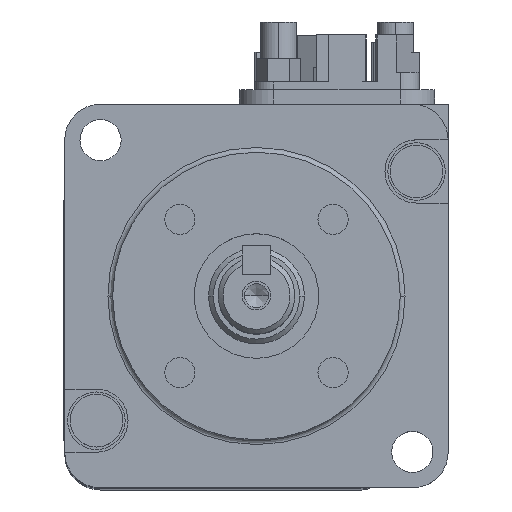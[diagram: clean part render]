
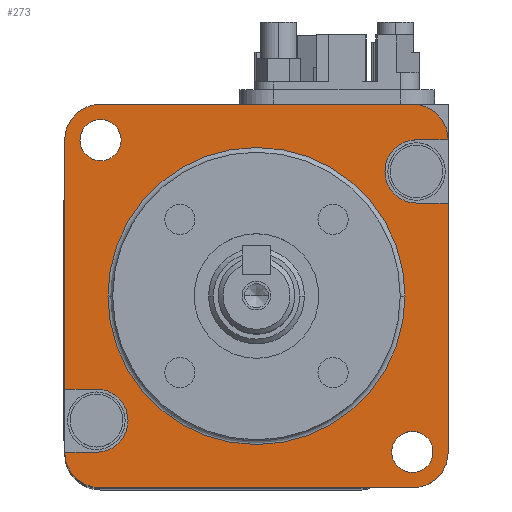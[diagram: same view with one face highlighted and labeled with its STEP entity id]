
A CAD part, top view. The second image highlights one B-rep face of the part: STEP entity #273.
In plain terms, the highlighted planar face has unit normal (0, 0, 1).
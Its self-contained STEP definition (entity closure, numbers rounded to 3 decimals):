
#273=ADVANCED_FACE('',(#2119,#2120,#2121,#2122),#2118,.T.);
#2118=PLANE('',#5145);
#2119=FACE_OUTER_BOUND('',#5146,.T.);
#2120=FACE_BOUND('',#5147,.T.);
#2121=FACE_BOUND('',#5148,.T.);
#2122=FACE_BOUND('',#5149,.T.);
#5142=CARTESIAN_POINT('',(-24.,-24.,0.));
#5143=DIRECTION('',(0.,0.,1.));
#5144=DIRECTION('',(1.,0.,0.));
#5145=AXIS2_PLACEMENT_3D('',#5142,#5143,#5144);
#5146=EDGE_LOOP('',(#7208,#7209,#7210,#7211,#7212,#7213,#7214,#7215,#7216,#7217,#7218,#7219,#7220,#7221));
#5147=EDGE_LOOP('',(#7222,#7223));
#5148=EDGE_LOOP('',(#7224,#7225));
#5149=EDGE_LOOP('',(#7226,#7227));
#7208=ORIENTED_EDGE('',*,*,#8835,.F.);
#7209=ORIENTED_EDGE('',*,*,#8818,.T.);
#7210=ORIENTED_EDGE('',*,*,#8856,.T.);
#7211=ORIENTED_EDGE('',*,*,#8857,.T.);
#7212=ORIENTED_EDGE('',*,*,#8858,.T.);
#7213=ORIENTED_EDGE('',*,*,#8842,.T.);
#7214=ORIENTED_EDGE('',*,*,#8859,.F.);
#7215=ORIENTED_EDGE('',*,*,#8845,.F.);
#7216=ORIENTED_EDGE('',*,*,#8860,.T.);
#7217=ORIENTED_EDGE('',*,*,#8861,.T.);
#7218=ORIENTED_EDGE('',*,*,#8862,.T.);
#7219=ORIENTED_EDGE('',*,*,#8863,.T.);
#7220=ORIENTED_EDGE('',*,*,#8833,.T.);
#7221=ORIENTED_EDGE('',*,*,#8824,.F.);
#7222=ORIENTED_EDGE('',*,*,#8864,.T.);
#7223=ORIENTED_EDGE('',*,*,#8865,.T.);
#7224=ORIENTED_EDGE('',*,*,#8866,.T.);
#7225=ORIENTED_EDGE('',*,*,#8867,.T.);
#7226=ORIENTED_EDGE('',*,*,#8868,.T.);
#7227=ORIENTED_EDGE('',*,*,#8869,.T.);
#8818=EDGE_CURVE('',#12530,#12523,#12531,.T.);
#8824=EDGE_CURVE('',#12570,#12571,#12572,.T.);
#8833=EDGE_CURVE('',#12631,#12571,#12632,.T.);
#8835=EDGE_CURVE('',#12530,#12570,#12644,.T.);
#8842=EDGE_CURVE('',#12692,#12693,#12694,.T.);
#8845=EDGE_CURVE('',#12712,#12713,#12714,.T.);
#8856=EDGE_CURVE('',#12523,#12788,#12789,.T.);
#8857=EDGE_CURVE('',#12788,#12795,#12796,.T.);
#8858=EDGE_CURVE('',#12795,#12692,#12802,.T.);
#8859=EDGE_CURVE('',#12713,#12693,#12808,.T.);
#8860=EDGE_CURVE('',#12712,#12814,#12815,.T.);
#8861=EDGE_CURVE('',#12814,#12821,#12822,.T.);
#8862=EDGE_CURVE('',#12821,#12828,#12829,.T.);
#8863=EDGE_CURVE('',#12828,#12631,#12835,.T.);
#8864=EDGE_CURVE('',#12841,#12842,#12843,.T.);
#8865=EDGE_CURVE('',#12842,#12841,#12849,.T.);
#8866=EDGE_CURVE('',#12855,#12856,#12857,.T.);
#8867=EDGE_CURVE('',#12856,#12855,#12863,.T.);
#8868=EDGE_CURVE('',#12869,#12870,#12871,.T.);
#8869=EDGE_CURVE('',#12870,#12869,#12877,.T.);
#12523=VERTEX_POINT('',#17856);
#12530=VERTEX_POINT('',#17860);
#12531=CIRCLE('',#17864,3.7);
#12570=VERTEX_POINT('',#17883);
#12571=VERTEX_POINT('',#17884);
#12572=CIRCLE('',#17888,3.3);
#12631=VERTEX_POINT('',#17921);
#12632=LINE('',#17922,#17923);
#12644=LINE('',#17928,#17929);
#12692=VERTEX_POINT('',#17958);
#12693=VERTEX_POINT('',#17959);
#12694=LINE('',#17960,#17961);
#12712=VERTEX_POINT('',#17969);
#12713=VERTEX_POINT('',#17970);
#12714=LINE('',#17971,#17972);
#12788=VERTEX_POINT('',#18020);
#12789=LINE('',#18021,#18022);
#12795=VERTEX_POINT('',#18024);
#12796=CIRCLE('',#18028,3.7);
#12802=LINE('',#18029,#18030);
#12808=CIRCLE('',#18035,3.3);
#12814=VERTEX_POINT('',#18036);
#12815=CIRCLE('',#18040,3.7);
#12821=VERTEX_POINT('',#18041);
#12822=LINE('',#18042,#18043);
#12828=VERTEX_POINT('',#18045);
#12829=CIRCLE('',#18049,3.7);
#12835=LINE('',#18050,#18051);
#12841=VERTEX_POINT('',#18053);
#12842=VERTEX_POINT('',#18054);
#12843=CIRCLE('',#18058,15.5);
#12849=CIRCLE('',#18062,15.5);
#12855=VERTEX_POINT('',#18063);
#12856=VERTEX_POINT('',#18064);
#12857=CIRCLE('',#18068,2.15);
#12863=CIRCLE('',#18072,2.15);
#12869=VERTEX_POINT('',#18073);
#12870=VERTEX_POINT('',#18074);
#12871=CIRCLE('',#18078,2.15);
#12877=CIRCLE('',#18082,2.15);
#17856=CARTESIAN_POINT('',(16.3,20.,0.));
#17860=CARTESIAN_POINT('',(20.,16.3,0.));
#17861=CARTESIAN_POINT('',(16.3,16.3,0.));
#17862=DIRECTION('',(0.,0.,1.));
#17863=DIRECTION('',(-1.,0.,0.));
#17864=AXIS2_PLACEMENT_3D('',#17861,#17862,#17863);
#17883=CARTESIAN_POINT('',(16.7,16.3,0.));
#17884=CARTESIAN_POINT('',(16.7,9.7,0.));
#17885=CARTESIAN_POINT('',(16.7,13.,0.));
#17886=DIRECTION('',(0.,0.,1.));
#17887=DIRECTION('',(0.,1.,0.));
#17888=AXIS2_PLACEMENT_3D('',#17885,#17886,#17887);
#17921=CARTESIAN_POINT('',(20.,9.7,0.));
#17922=CARTESIAN_POINT('',(20.,9.7,0.));
#17923=VECTOR('',#17924,3.3);
#17924=DIRECTION('',(-1.,0.,0.));
#17928=CARTESIAN_POINT('',(20.,16.3,0.));
#17929=VECTOR('',#17930,3.3);
#17930=DIRECTION('',(-1.,0.,0.));
#17958=CARTESIAN_POINT('',(-20.,-9.7,0.));
#17959=CARTESIAN_POINT('',(-16.7,-9.7,0.));
#17960=CARTESIAN_POINT('',(-20.,-9.7,0.));
#17961=VECTOR('',#17962,3.3);
#17962=DIRECTION('',(1.,0.,0.));
#17969=CARTESIAN_POINT('',(-20.,-16.3,0.));
#17970=CARTESIAN_POINT('',(-16.7,-16.3,0.));
#17971=CARTESIAN_POINT('',(-20.,-16.3,0.));
#17972=VECTOR('',#17973,3.3);
#17973=DIRECTION('',(1.,0.,0.));
#18020=CARTESIAN_POINT('',(-16.3,20.,0.));
#18021=CARTESIAN_POINT('',(16.3,20.,0.));
#18022=VECTOR('',#18023,32.6);
#18023=DIRECTION('',(-1.,0.,0.));
#18024=CARTESIAN_POINT('',(-20.,16.3,0.));
#18025=CARTESIAN_POINT('',(-16.3,16.3,0.));
#18026=DIRECTION('',(0.,0.,1.));
#18027=DIRECTION('',(0.,-1.,0.));
#18028=AXIS2_PLACEMENT_3D('',#18025,#18026,#18027);
#18029=CARTESIAN_POINT('',(-20.,16.3,0.));
#18030=VECTOR('',#18031,26.);
#18031=DIRECTION('',(0.,-1.,0.));
#18032=CARTESIAN_POINT('',(-16.7,-13.,0.));
#18033=DIRECTION('',(0.,0.,1.));
#18034=DIRECTION('',(-1.,0.,0.));
#18035=AXIS2_PLACEMENT_3D('',#18032,#18033,#18034);
#18036=CARTESIAN_POINT('',(-16.3,-20.,0.));
#18037=CARTESIAN_POINT('',(-16.3,-16.3,0.));
#18038=DIRECTION('',(0.,0.,1.));
#18039=DIRECTION('',(1.,0.,0.));
#18040=AXIS2_PLACEMENT_3D('',#18037,#18038,#18039);
#18041=CARTESIAN_POINT('',(16.3,-20.,0.));
#18042=CARTESIAN_POINT('',(-16.3,-20.,0.));
#18043=VECTOR('',#18044,32.6);
#18044=DIRECTION('',(1.,0.,0.));
#18045=CARTESIAN_POINT('',(20.,-16.3,0.));
#18046=CARTESIAN_POINT('',(16.3,-16.3,0.));
#18047=DIRECTION('',(0.,0.,1.));
#18048=DIRECTION('',(0.,1.,0.));
#18049=AXIS2_PLACEMENT_3D('',#18046,#18047,#18048);
#18050=CARTESIAN_POINT('',(20.,-16.3,0.));
#18051=VECTOR('',#18052,26.);
#18052=DIRECTION('',(0.,1.,0.));
#18053=CARTESIAN_POINT('',(15.5,0.,0.));
#18054=CARTESIAN_POINT('',(-15.5,0.,0.));
#18055=CARTESIAN_POINT('',(0.,0.,0.));
#18056=DIRECTION('',(0.,0.,-1.));
#18057=DIRECTION('',(1.,0.,0.));
#18058=AXIS2_PLACEMENT_3D('',#18055,#18056,#18057);
#18059=CARTESIAN_POINT('',(0.,0.,0.));
#18060=DIRECTION('',(0.,0.,-1.));
#18061=DIRECTION('',(1.,0.,0.));
#18062=AXIS2_PLACEMENT_3D('',#18059,#18060,#18061);
#18063=CARTESIAN_POINT('',(18.413,-16.263,0.));
#18064=CARTESIAN_POINT('',(14.113,-16.263,0.));
#18065=CARTESIAN_POINT('',(16.263,-16.263,0.));
#18066=DIRECTION('',(0.,0.,-1.));
#18067=DIRECTION('',(1.,0.,0.));
#18068=AXIS2_PLACEMENT_3D('',#18065,#18066,#18067);
#18069=CARTESIAN_POINT('',(16.263,-16.263,0.));
#18070=DIRECTION('',(0.,0.,-1.));
#18071=DIRECTION('',(1.,0.,0.));
#18072=AXIS2_PLACEMENT_3D('',#18069,#18070,#18071);
#18073=CARTESIAN_POINT('',(-14.113,16.263,0.));
#18074=CARTESIAN_POINT('',(-18.413,16.263,0.));
#18075=CARTESIAN_POINT('',(-16.263,16.263,0.));
#18076=DIRECTION('',(0.,0.,-1.));
#18077=DIRECTION('',(1.,0.,0.));
#18078=AXIS2_PLACEMENT_3D('',#18075,#18076,#18077);
#18079=CARTESIAN_POINT('',(-16.263,16.263,0.));
#18080=DIRECTION('',(0.,0.,-1.));
#18081=DIRECTION('',(1.,0.,0.));
#18082=AXIS2_PLACEMENT_3D('',#18079,#18080,#18081);
